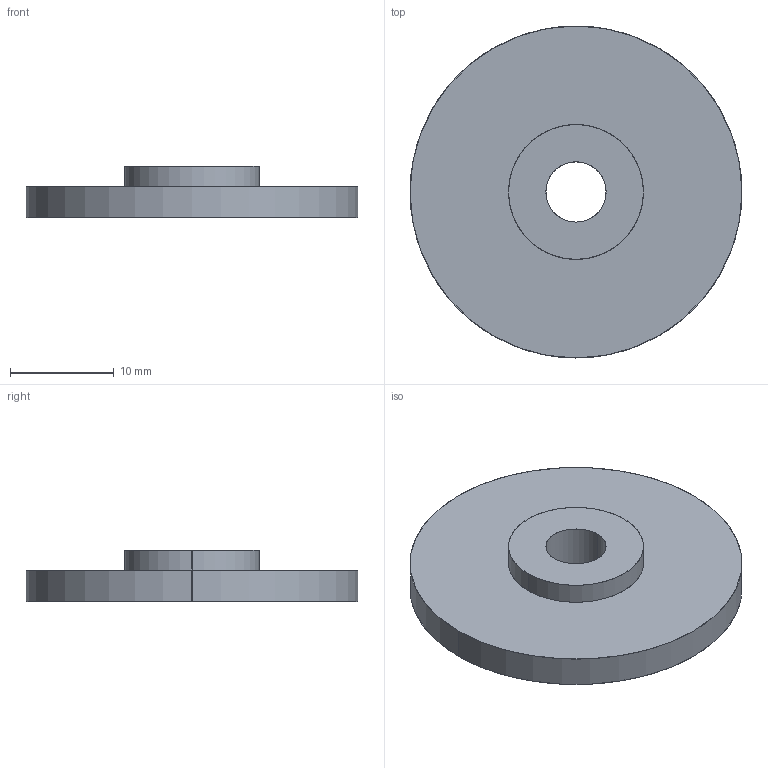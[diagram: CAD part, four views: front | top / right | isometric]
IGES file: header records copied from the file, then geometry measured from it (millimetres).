
Start section: SolidWorks IGES file using analytic representation for surfaces
Global section: file name: C:\Users\AndreBernot\Downloads\K-RACER-L_3D_SW\K-RACER-L_3D_SW\Roue avant RACER-L.IGS; native system: SolidWorks 2015; preprocessor: SolidWorks 2015; author: AndreBernot; date: 170922.151502; units: millimetre
Bounding box: 32 x 32 x 5 mm (x, y, z)
Surface area: 2030 mm2 (no closed solid volume)
Topology: 0 solids, 0 shells, 9 faces, 280 edges, 280 vertices
Faces by surface type: revolution 6, bspline 3
